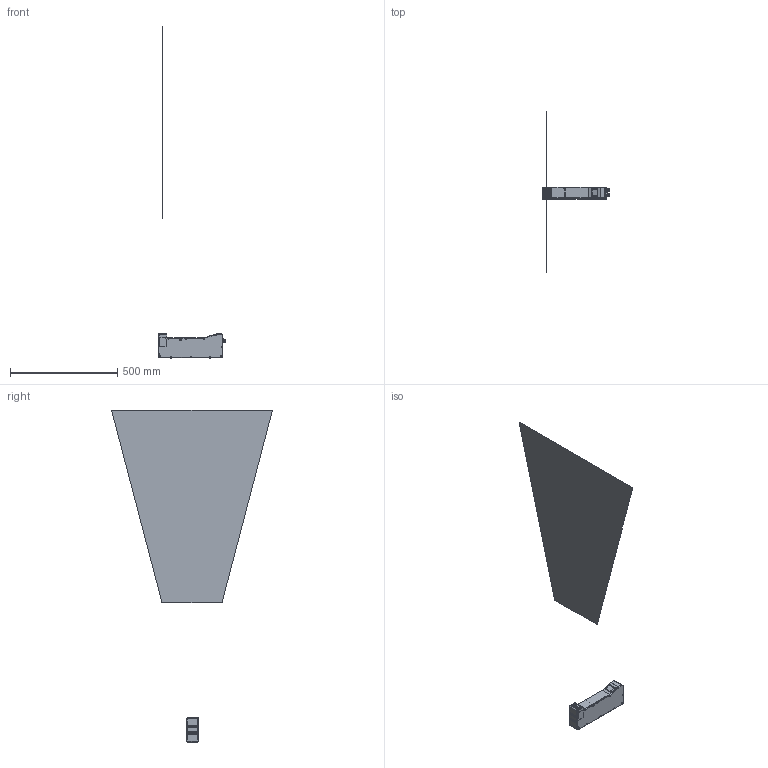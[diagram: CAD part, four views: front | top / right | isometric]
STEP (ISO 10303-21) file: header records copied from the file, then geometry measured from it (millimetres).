
FILE_DESCRIPTION((''),'2;1');
FILE_NAME('MV-DP4940-03P','2024-10-10T14:31:23',('zhujiahao9'),(''),'CREO PARAMETRIC BY PTC INC, 2020044','CREO PARAMETRIC BY PTC INC, 2020044','');
FILE_SCHEMA(('CONFIG_CONTROL_DESIGN'));
Products named in the file (1): MV-DP4940-03P
Bounding box: 315.9 x 750 x 1548.67 mm (x, y, z)
Surface area: 1039845.5 mm2
Topology: 1 solids, 43 shells, 723 faces, 2502 edges, 1761 vertices
Faces by surface type: plane 286, cylinder 205, cone 157, bspline 43, torus 32
Entity records: 44560 total; most frequent: CARTESIAN_POINT 23827, ORIENTED_EDGE 4106, DIRECTION 4105, EDGE_CURVE 2470, VERTEX_POINT 1761, AXIS2_PLACEMENT_3D 1435, VECTOR 1235, LINE 1235
